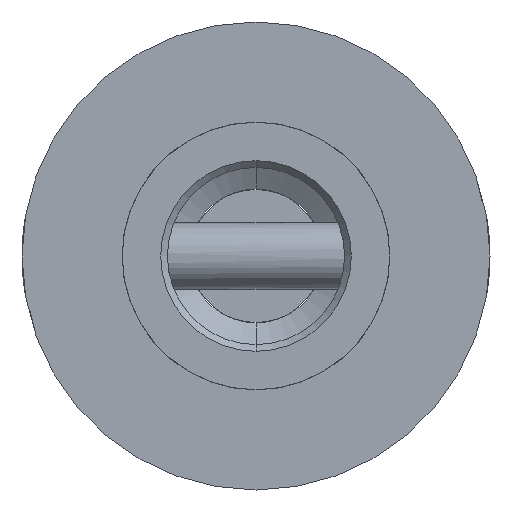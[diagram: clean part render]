
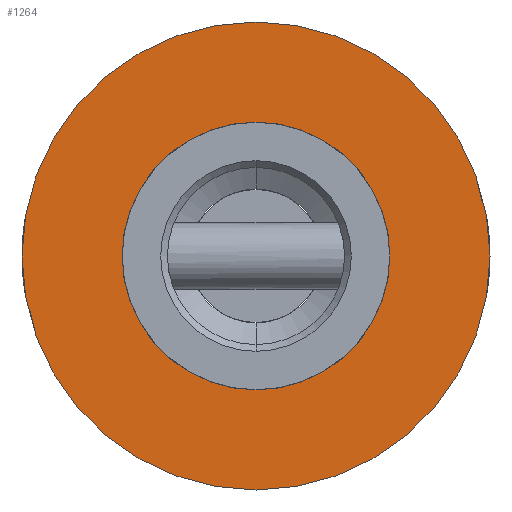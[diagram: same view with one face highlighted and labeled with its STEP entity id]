
A CAD part, front view. The second image highlights one B-rep face of the part: STEP entity #1264.
In plain terms, the highlighted planar face has unit normal (0, -1, 0).
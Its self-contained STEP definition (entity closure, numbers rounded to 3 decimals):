
#11 = EDGE_CURVE ( 'NONE', #2573, #2954, #664, .T. ) ;
#167 = CARTESIAN_POINT ( 'NONE',  ( 0., -400., 0. ) ) ;
#281 = FACE_OUTER_BOUND ( 'NONE', #2814, .T. ) ;
#335 = AXIS2_PLACEMENT_3D ( 'NONE', #2159, #2165, #2142 ) ;
#337 = EDGE_CURVE ( 'NONE', #2707, #1072, #2720, .T. ) ;
#388 = CARTESIAN_POINT ( 'NONE',  ( 0., -400., 4.005 ) ) ;
#462 = DIRECTION ( 'NONE',  ( 0., 0., -1. ) ) ;
#641 = DIRECTION ( 'NONE',  ( 0., -1., 0. ) ) ;
#664 = CIRCLE ( 'NONE', #335, 4.005 ) ;
#671 = CARTESIAN_POINT ( 'NONE',  ( 0., -400., 0. ) ) ;
#1006 = AXIS2_PLACEMENT_3D ( 'NONE', #2623, #2611, #2600 ) ;
#1072 = VERTEX_POINT ( 'NONE', #2605 ) ;
#1264 = ADVANCED_FACE ( 'NONE', ( #2859, #281 ), #3029, .T. ) ;
#1466 = CARTESIAN_POINT ( 'NONE',  ( 0., -400., 7. ) ) ;
#1477 = EDGE_CURVE ( 'NONE', #1072, #2707, #1677, .T. ) ;
#1487 = AXIS2_PLACEMENT_3D ( 'NONE', #671, #641, #462 ) ;
#1562 = DIRECTION ( 'NONE',  ( 0., -1., 0. ) ) ;
#1574 = CARTESIAN_POINT ( 'NONE',  ( 0., -400., 0. ) ) ;
#1677 = CIRCLE ( 'NONE', #1487, 7. ) ;
#1824 = DIRECTION ( 'NONE',  ( 0., 0., -1. ) ) ;
#1865 = AXIS2_PLACEMENT_3D ( 'NONE', #1574, #1562, #1824 ) ;
#2038 = EDGE_LOOP ( 'NONE', ( #2177, #2472 ) ) ;
#2142 = DIRECTION ( 'NONE',  ( 0., 0., -1. ) ) ;
#2159 = CARTESIAN_POINT ( 'NONE',  ( 0., -400., 0. ) ) ;
#2165 = DIRECTION ( 'NONE',  ( 0., -1., 0. ) ) ;
#2177 = ORIENTED_EDGE ( 'NONE', *, *, #3150, .F. ) ;
#2320 = CARTESIAN_POINT ( 'NONE',  ( 0., -400., -4.005 ) ) ;
#2462 = AXIS2_PLACEMENT_3D ( 'NONE', #167, #2798, #3275 ) ;
#2472 = ORIENTED_EDGE ( 'NONE', *, *, #11, .F. ) ;
#2553 = ORIENTED_EDGE ( 'NONE', *, *, #1477, .T. ) ;
#2573 = VERTEX_POINT ( 'NONE', #388 ) ;
#2600 = DIRECTION ( 'NONE',  ( 0., 0., -1. ) ) ;
#2605 = CARTESIAN_POINT ( 'NONE',  ( 0., -400., -7. ) ) ;
#2611 = DIRECTION ( 'NONE',  ( 0., -1., 0. ) ) ;
#2623 = CARTESIAN_POINT ( 'NONE',  ( 0., -400., 0. ) ) ;
#2707 = VERTEX_POINT ( 'NONE', #1466 ) ;
#2720 = CIRCLE ( 'NONE', #1865, 7. ) ;
#2781 = ORIENTED_EDGE ( 'NONE', *, *, #337, .T. ) ;
#2798 = DIRECTION ( 'NONE',  ( 0., -1., 0. ) ) ;
#2814 = EDGE_LOOP ( 'NONE', ( #2553, #2781 ) ) ;
#2859 = FACE_BOUND ( 'NONE', #2038, .T. ) ;
#2954 = VERTEX_POINT ( 'NONE', #2320 ) ;
#3019 = CIRCLE ( 'NONE', #1006, 4.005 ) ;
#3029 = PLANE ( 'NONE',  #2462 ) ;
#3150 = EDGE_CURVE ( 'NONE', #2954, #2573, #3019, .T. ) ;
#3275 = DIRECTION ( 'NONE',  ( 0., 0., -1. ) ) ;
